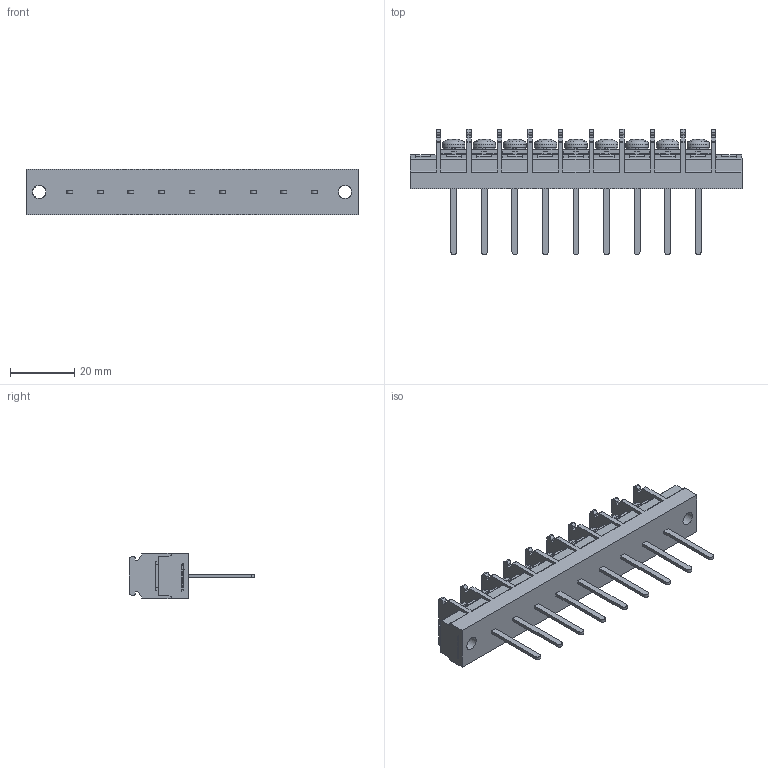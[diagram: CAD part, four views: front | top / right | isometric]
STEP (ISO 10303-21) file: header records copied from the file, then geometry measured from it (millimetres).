
FILE_DESCRIPTION(/* description */ ('Alibre Inc.'),/* implementation_level */ '2;1');
FILE_NAME(/* name */ 'export-38A3ACBE-1B9B-4039-9136-46667C87ED61',/* time_stamp */ '2021-02-13T17:35:06+09:00',/* author */ (''),/* organization */ (''),/* preprocessor_version */ 'ST-DEVELOPER v17',/* originating_system */ 'Alibre',/* authorisation */ '');
FILE_SCHEMA (('CONFIG_CONTROL_DESIGN'));
Length unit declared in the file: millimetre
Bounding box: 103.2 x 39 x 14 mm (x, y, z)
Volume: 16977.2 mm3; surface area: 11993.2 mm2
Topology: 1 solids, 26 shells, 1498 faces, 4205 edges, 2765 vertices
Faces by surface type: plane 1118, cylinder 204, bspline 104, cone 45, torus 18, sphere 9
Full cylindrical faces by diameter (mm): 4 x20, 4.2 x2, 7 x9
Entity records: 45840 total; most frequent: CARTESIAN_POINT 9380, ORIENTED_EDGE 8254, DIRECTION 5999, EDGE_CURVE 4127, VECTOR 2993, LINE 2993, VERTEX_POINT 2745, AXIS2_PLACEMENT_3D 2034
